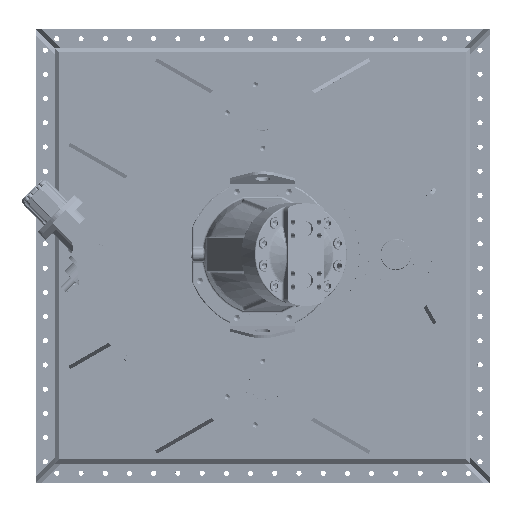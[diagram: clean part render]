
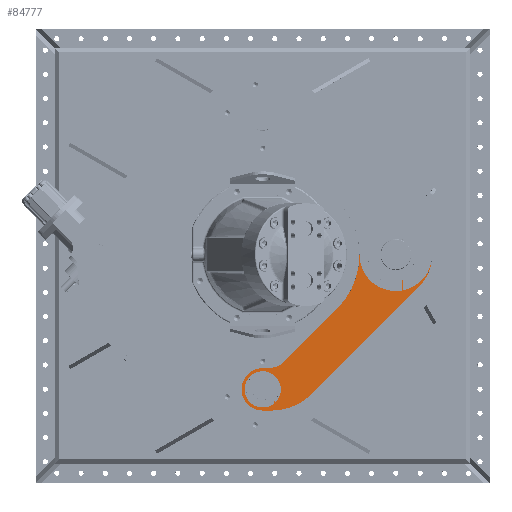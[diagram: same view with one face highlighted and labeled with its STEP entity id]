
A CAD part, top view. The second image highlights one B-rep face of the part: STEP entity #84777.
In plain terms, the highlighted planar face has unit normal (0, 0, 1).
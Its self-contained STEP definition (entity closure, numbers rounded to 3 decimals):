
#691=FACE_BOUND('',#22338,.T.);
#5015=LINE('',#123225,#10476);
#5041=LINE('',#123340,#10502);
#5082=LINE('',#123552,#10543);
#5083=LINE('',#123556,#10544);
#5084=LINE('',#123560,#10545);
#5085=LINE('',#123564,#10546);
#10476=VECTOR('',#99146,10.);
#10502=VECTOR('',#99266,10.);
#10543=VECTOR('',#99495,10.);
#10544=VECTOR('',#99498,10.);
#10545=VECTOR('',#99501,10.);
#10546=VECTOR('',#99504,10.);
#17509=FACE_OUTER_BOUND('',#22337,.T.);
#22337=EDGE_LOOP('',(#54369,#54370,#54371,#54372,#54373,#54374,#54375,#54376,
#54377,#54378,#54379,#54380,#54381,#54382));
#22338=EDGE_LOOP('',(#54383,#54384));
#28085=CIRCLE('',#89762,52.633);
#28086=CIRCLE('',#89764,52.633);
#28092=CIRCLE('',#89773,120.);
#28135=CIRCLE('',#89836,120.);
#28177=CIRCLE('',#89911,87.5);
#28178=CIRCLE('',#89912,251.421);
#28179=CIRCLE('',#89913,75.);
#28180=CIRCLE('',#89914,70.);
#28181=CIRCLE('',#89915,187.);
#28182=CIRCLE('',#89916,150.);
#32746=VERTEX_POINT('',#123161);
#32748=VERTEX_POINT('',#123173);
#32763=VERTEX_POINT('',#123222);
#32764=VERTEX_POINT('',#123224);
#32767=VERTEX_POINT('',#123232);
#32793=VERTEX_POINT('',#123309);
#32806=VERTEX_POINT('',#123338);
#32820=VERTEX_POINT('',#123377);
#32870=VERTEX_POINT('',#123549);
#32871=VERTEX_POINT('',#123551);
#32872=VERTEX_POINT('',#123553);
#32873=VERTEX_POINT('',#123555);
#32874=VERTEX_POINT('',#123557);
#32875=VERTEX_POINT('',#123559);
#32876=VERTEX_POINT('',#123561);
#32877=VERTEX_POINT('',#123563);
#41142=EDGE_CURVE('',#32748,#32746,#28085,.T.);
#41143=EDGE_CURVE('',#32746,#32748,#28086,.T.);
#41155=EDGE_CURVE('',#32764,#32763,#5015,.T.);
#41159=EDGE_CURVE('',#32767,#32764,#28092,.T.);
#41212=EDGE_CURVE('',#32793,#32806,#5041,.T.);
#41232=EDGE_CURVE('',#32806,#32820,#28135,.T.);
#41311=EDGE_CURVE('',#32763,#32793,#28177,.T.);
#41312=EDGE_CURVE('',#32820,#32870,#28178,.T.);
#41313=EDGE_CURVE('',#32870,#32871,#5082,.T.);
#41314=EDGE_CURVE('',#32872,#32871,#28179,.T.);
#41315=EDGE_CURVE('',#32872,#32873,#5083,.T.);
#41316=EDGE_CURVE('',#32873,#32874,#28180,.T.);
#41317=EDGE_CURVE('',#32874,#32875,#5084,.T.);
#41318=EDGE_CURVE('',#32876,#32875,#28181,.T.);
#41319=EDGE_CURVE('',#32876,#32877,#5085,.T.);
#41320=EDGE_CURVE('',#32877,#32767,#28182,.T.);
#54369=ORIENTED_EDGE('',*,*,#41155,.T.);
#54370=ORIENTED_EDGE('',*,*,#41311,.T.);
#54371=ORIENTED_EDGE('',*,*,#41212,.T.);
#54372=ORIENTED_EDGE('',*,*,#41232,.T.);
#54373=ORIENTED_EDGE('',*,*,#41312,.T.);
#54374=ORIENTED_EDGE('',*,*,#41313,.T.);
#54375=ORIENTED_EDGE('',*,*,#41314,.F.);
#54376=ORIENTED_EDGE('',*,*,#41315,.T.);
#54377=ORIENTED_EDGE('',*,*,#41316,.T.);
#54378=ORIENTED_EDGE('',*,*,#41317,.T.);
#54379=ORIENTED_EDGE('',*,*,#41318,.F.);
#54380=ORIENTED_EDGE('',*,*,#41319,.T.);
#54381=ORIENTED_EDGE('',*,*,#41320,.T.);
#54382=ORIENTED_EDGE('',*,*,#41159,.T.);
#54383=ORIENTED_EDGE('',*,*,#41142,.T.);
#54384=ORIENTED_EDGE('',*,*,#41143,.T.);
#77838=PLANE('',#89910);
#84777=ADVANCED_FACE('',(#17509,#691),#77838,.T.);
#89762=AXIS2_PLACEMENT_3D('',#123198,#99120,#99121);
#89764=AXIS2_PLACEMENT_3D('',#123200,#99124,#99125);
#89773=AXIS2_PLACEMENT_3D('',#123233,#99152,#99153);
#89836=AXIS2_PLACEMENT_3D('',#123379,#99308,#99309);
#89910=AXIS2_PLACEMENT_3D('',#123547,#99489,#99490);
#89911=AXIS2_PLACEMENT_3D('',#123548,#99491,#99492);
#89912=AXIS2_PLACEMENT_3D('',#123550,#99493,#99494);
#89913=AXIS2_PLACEMENT_3D('',#123554,#99496,#99497);
#89914=AXIS2_PLACEMENT_3D('',#123558,#99499,#99500);
#89915=AXIS2_PLACEMENT_3D('',#123562,#99502,#99503);
#89916=AXIS2_PLACEMENT_3D('',#123565,#99505,#99506);
#99120=DIRECTION('center_axis',(0.,0.,
-1.));
#99121=DIRECTION('ref_axis',(0.,1.,0.));
#99124=DIRECTION('center_axis',(0.,0.,
-1.));
#99125=DIRECTION('ref_axis',(0.,1.,0.));
#99146=DIRECTION('',(0.,1.,0.));
#99152=DIRECTION('center_axis',(0.,0.,
-1.));
#99153=DIRECTION('ref_axis',(0.866,0.5,0.));
#99266=DIRECTION('',(0.,-1.,0.));
#99308=DIRECTION('center_axis',(0.,0.,
-1.));
#99309=DIRECTION('ref_axis',(0.866,0.5,0.));
#99489=DIRECTION('center_axis',(0.,0.,
1.));
#99490=DIRECTION('ref_axis',(0.,-1.,0.));
#99491=DIRECTION('center_axis',(0.,0.,
-1.));
#99492=DIRECTION('ref_axis',(0.,-1.,0.));
#99493=DIRECTION('center_axis',(0.,0.,
-1.));
#99494=DIRECTION('ref_axis',(-1.,0.,0.));
#99495=DIRECTION('',(-0.707,-0.707,0.));
#99496=DIRECTION('center_axis',(0.,0.,
1.));
#99497=DIRECTION('ref_axis',(0.383,-0.924,0.));
#99498=DIRECTION('',(-1.,0.,0.));
#99499=DIRECTION('center_axis',(0.,0.,
1.));
#99500=DIRECTION('ref_axis',(0.,1.,0.));
#99501=DIRECTION('',(1.,0.,0.));
#99502=DIRECTION('center_axis',(0.,0.,
-1.));
#99503=DIRECTION('ref_axis',(0.383,-0.924,0.));
#99504=DIRECTION('',(0.707,0.707,0.));
#99505=DIRECTION('center_axis',(0.,0.,
1.));
#99506=DIRECTION('ref_axis',(0.707,-0.707,0.));
#123161=CARTESIAN_POINT('',(36.99,-482.213,2382.548));
#123173=CARTESIAN_POINT('',(34.796,-484.26,2382.548));
#123198=CARTESIAN_POINT('Origin',(0.,-444.77,
2382.548));
#123200=CARTESIAN_POINT('Origin',(0.,-444.77,
2382.548));
#123222=CARTESIAN_POINT('',(464.,-84.144,2382.548));
#123224=CARTESIAN_POINT('',(464.,-117.576,2382.548));
#123225=CARTESIAN_POINT('',(464.,-237.027,2382.548));
#123232=CARTESIAN_POINT('',(560.,0.,2382.548));
#123233=CARTESIAN_POINT('Origin',(440.,0.,
2382.548));
#123309=CARTESIAN_POINT('',(461.,-84.943,2382.548));
#123338=CARTESIAN_POINT('',(461.,-118.148,2382.548));
#123340=CARTESIAN_POINT('',(461.,-121.556,2382.548));
#123377=CARTESIAN_POINT('',(320.,0.,2382.548));
#123379=CARTESIAN_POINT('Origin',(440.,0.,
2382.548));
#123547=CARTESIAN_POINT('Origin',(252.875,-255.237,2382.548));
#123548=CARTESIAN_POINT('Origin',(440.,0.,
2382.548));
#123549=CARTESIAN_POINT('',(246.36,-177.782,2382.548));
#123550=CARTESIAN_POINT('Origin',(68.579,0.,
2382.548));
#123551=CARTESIAN_POINT('',(71.339,-352.803,2382.548));
#123552=CARTESIAN_POINT('',(246.36,-177.782,2382.548));
#123553=CARTESIAN_POINT('',(18.306,-374.77,2382.548));
#123554=CARTESIAN_POINT('Origin',(18.306,-299.77,2382.548));
#123555=CARTESIAN_POINT('',(0.,-374.77,2382.548));
#123556=CARTESIAN_POINT('',(49.372,-374.77,2382.548));
#123557=CARTESIAN_POINT('',(0.,-514.77,2382.548));
#123558=CARTESIAN_POINT('Origin',(0.,-444.77,
2382.548));
#123559=CARTESIAN_POINT('',(29.904,-514.77,2382.548));
#123560=CARTESIAN_POINT('',(0.,-514.77,2382.548));
#123561=CARTESIAN_POINT('',(162.133,-459.999,2382.548));
#123562=CARTESIAN_POINT('Origin',(29.904,-327.77,2382.548));
#123563=CARTESIAN_POINT('',(516.066,-106.066,2382.548));
#123564=CARTESIAN_POINT('',(107.362,-514.77,2382.548));
#123565=CARTESIAN_POINT('Origin',(410.,0.,
2382.548));
